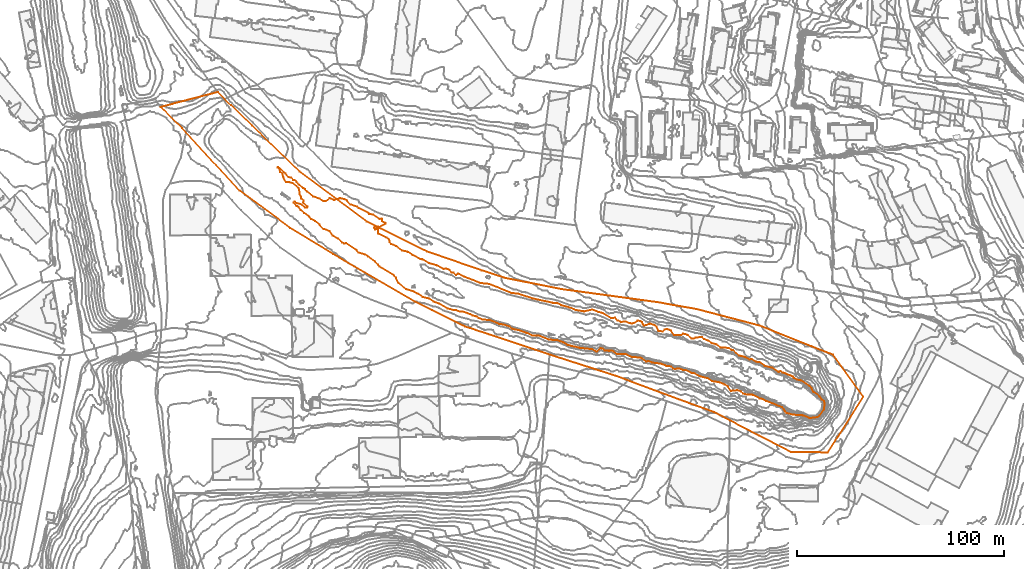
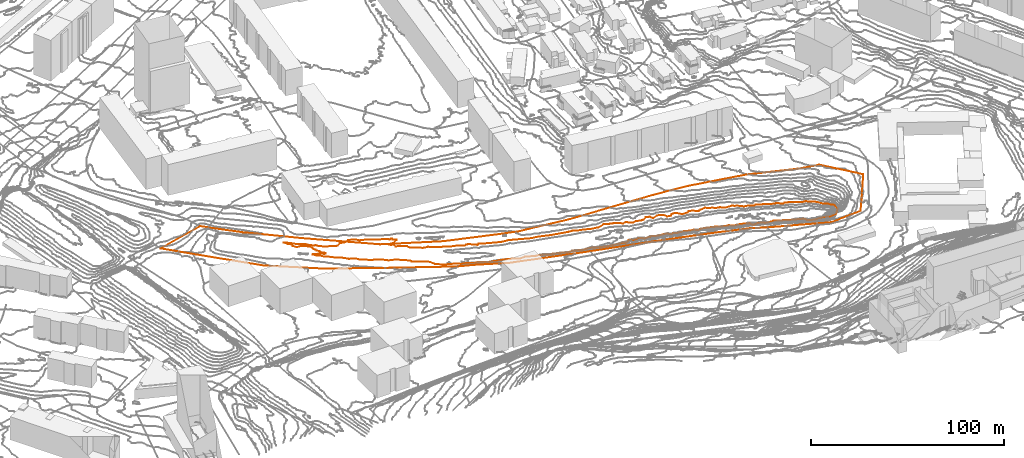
# Not in any storey, part 232 of 419: 2 proxies.
"""IFC2X3 model written with IfcOpenShell, lengths in metres."""

from ifc_helpers import new_model, entity, si_unit, frame, origin_with_axes, place, context, subcontext, project, element, save


model = new_model("IFC2X3")

# Units and contexts
model_context = context("Model", 3, precision=1e-05, world=origin_with_axes())
body_context = subcontext(model_context, "Body", "Model", "MODEL_VIEW")
ifc_project = project(units=[si_unit("AREAUNIT", "SQUARE_METRE"), si_unit("LENGTHUNIT", "METRE")], contexts=[model_context])

# Proxies
proxy_1_placement = place(None, frame((237.1920204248, 640.1476909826, 24.4700004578), z_axis=(0.0, 0.0, 1.0), x_axis=(1.0, 0.0, 0.0)))
element("IfcBuildingElementProxy", 1, at=proxy_1_placement, Name="Cadastre 378", ObjectType="NOTDEFINED", context=body_context, shape_type="GeometricCurveSet", body=[
    entity("IfcGeometricCurveSet", [entity("IfcPolyline", [entity("IfcCartesianPoint", [27.89, 7.2700000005, -0.0487085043]), entity("IfcCartesianPoint", [34.1900000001, 0.79, 0.0371970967]), entity("IfcCartesianPoint", [44.26, -9.0300000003, 0.1634316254]), entity("IfcCartesianPoint", [67.27, -31.29, 1.8423895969]), entity("IfcCartesianPoint", [99.63, -55.3600000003, 1.2714699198]), entity("IfcCartesianPoint", [128.9500000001, -69.9399999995, 1.8054446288]), entity("IfcCartesianPoint", [155.38, -79.0199999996, 2.3417530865]), entity("IfcCartesianPoint", [166.3400000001, -82.6200000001, 2.6216414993]), entity("IfcCartesianPoint", [194.05, -88.1200000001, 3.9994995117]), entity("IfcCartesianPoint", [240.3500000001, -94.4399999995, 7.0114348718]), entity("IfcCartesianPoint", [259.41, -97.7699999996, 8.0475080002]), entity("IfcCartesianPoint", [289.8, -105.7599999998, 9.4713597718]), entity("IfcCartesianPoint", [314.63, -115.7400000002, 10.4134781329]), entity("IfcCartesianPoint", [325.28, -119.8300000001, 11.7525920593]), entity("IfcCartesianPoint", [339.9400000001, -140.0199999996, 12.7970164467]), entity("IfcCartesianPoint", [327.6000000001, -159.5700000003, 12.6689586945]), entity("IfcCartesianPoint", [322.66, -167.0700000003, 12.1500870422]), entity("IfcCartesianPoint", [305.0700000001, -166.9299999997, 10.9355724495]), entity("IfcCartesianPoint", [289.49, -159.0099999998, 9.9427879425]), entity("IfcCartesianPoint", [275.4500000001, -151.6299999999, 8.7594995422]), entity("IfcCartesianPoint", [267.77, -147.6100000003, 8.5244804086]), entity("IfcCartesianPoint", [251.03, -141.5599999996, 8.0242990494]), entity("IfcCartesianPoint", [220.5600000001, -130.1899999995, 6.2590394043]), entity("IfcCartesianPoint", [188.2200000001, -119.79, 4.9893508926]), entity("IfcCartesianPoint", [159.2300000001, -110.0700000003, 3.9521359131]), entity("IfcCartesianPoint", [147.3100000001, -106.2199999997, 3.6562227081]), entity("IfcCartesianPoint", [131.4600000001, -98.2800000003, 3.1835332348]), entity("IfcCartesianPoint", [122.87, -94.0899999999, 2.5711078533]), entity("IfcCartesianPoint", [83.41, -71.1100000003, 1.3876200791]), entity("IfcCartesianPoint", [62.8100000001, -58.5099999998, 0.7618069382]), entity("IfcCartesianPoint", [38.28, -40.4500000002, 0.2918396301]), entity("IfcCartesianPoint", [10.52, -10.25, -0.4362005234]), entity("IfcCartesianPoint", [0.0, 0.0, 0.0]), entity("IfcCartesianPoint", [27.89, 7.2700000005, -0.0487085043])])]),
])
proxy_2_placement = place(None, frame((293.9670174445, 610.8976909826, 26.0), z_axis=(0.0, 0.0, 1.0), x_axis=(1.0, 0.0, 0.0)))
element("IfcBuildingElementProxy", 2, at=proxy_2_placement, Name="Contour 26.0 m", ObjectType="NOTDEFINED", context=body_context, shape_type="GeometricCurveSet", body=[
    entity("IfcGeometricCurveSet", [entity("IfcPolyline", [entity("IfcCartesianPoint", [259.1250029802, -121.0676469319, 0.0]), entity("IfcCartesianPoint", [261.1250029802, -120.6690389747, 0.0]), entity("IfcCartesianPoint", [261.99136201, -120.0, 0.0]), entity("IfcCartesianPoint", [264.1844824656, -117.0, 0.0]), entity("IfcCartesianPoint", [264.4869075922, -114.0, 0.0]), entity("IfcCartesianPoint", [264.2086529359, -113.0, 0.0]), entity("IfcCartesianPoint", [263.1250029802, -112.1921824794, 0.0]), entity("IfcCartesianPoint", [262.1250029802, -110.7319586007, 0.0]), entity("IfcCartesianPoint", [259.1250029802, -108.5354840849, 0.0]), entity("IfcCartesianPoint", [258.1250029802, -106.6981133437, 0.0]), entity("IfcCartesianPoint", [257.1250029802, -105.7835059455, 0.0]), entity("IfcCartesianPoint", [253.1250029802, -102.9876540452, 0.0]), entity("IfcCartesianPoint", [251.1250029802, -102.6944444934, 0.0]), entity("IfcCartesianPoint", [249.6891046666, -102.0, 0.0]), entity("IfcCartesianPoint", [249.1250029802, -101.2666670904, 0.0]), entity("IfcCartesianPoint", [248.1250029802, -100.6818185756, 0.0]), entity("IfcCartesianPoint", [246.1250029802, -100.0396819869, 0.0]), entity("IfcCartesianPoint", [245.1250029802, -99.4021747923, 0.0]), entity("IfcCartesianPoint", [244.1250029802, -99.2734376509, 0.0]), entity("IfcCartesianPoint", [243.1250029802, -98.5000018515, 0.0]), entity("IfcCartesianPoint", [242.1250029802, -98.9473673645, 0.0]), entity("IfcCartesianPoint", [239.1250029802, -96.9083964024, 0.0]), entity("IfcCartesianPoint", [235.5555582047, -96.0, 0.0]), entity("IfcCartesianPoint", [233.1250029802, -94.2424240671, 0.0]), entity("IfcCartesianPoint", [231.2750017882, -94.0, 0.0]), entity("IfcCartesianPoint", [229.1250029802, -92.739131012, 0.0]), entity("IfcCartesianPoint", [228.1250029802, -92.8275855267, 0.0]), entity("IfcCartesianPoint", [226.1250029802, -91.8252425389, 0.0]), entity("IfcCartesianPoint", [224.1250029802, -91.1372544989, 0.0]), entity("IfcCartesianPoint", [223.1250029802, -91.095238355, 0.0]), entity("IfcCartesianPoint", [220.1250029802, -88.4558813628, 0.0]), entity("IfcCartesianPoint", [219.1250029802, -88.1896562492, 0.0]), entity("IfcCartesianPoint", [218.1250029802, -87.3000009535, 0.0]), entity("IfcCartesianPoint", [214.1250029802, -87.1384618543, 0.0]), entity("IfcCartesianPoint", [212.1250029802, -85.57894684, 0.0]), entity("IfcCartesianPoint", [209.7678640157, -85.0, 0.0]), entity("IfcCartesianPoint", [208.1250029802, -83.7407423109, 0.0]), entity("IfcCartesianPoint", [206.1250029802, -83.0000038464, 0.0]), entity("IfcCartesianPoint", [205.1250029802, -82.0000030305, 0.0]), entity("IfcCartesianPoint", [202.1250029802, -82.3124955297, 0.0]), entity("IfcCartesianPoint", [201.1250029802, -82.8749970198, 0.0]), entity("IfcCartesianPoint", [200.1250029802, -82.7777730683, 0.0]), entity("IfcCartesianPoint", [198.124995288, -81.0, 0.0]), entity("IfcCartesianPoint", [196.1250029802, -80.3720924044, 0.0]), entity("IfcCartesianPoint", [195.1250029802, -81.0519492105, 0.0]), entity("IfcCartesianPoint", [192.1250029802, -81.1916165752, 0.0]), entity("IfcCartesianPoint", [191.6678598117, -81.0, 0.0]), entity("IfcCartesianPoint", [190.1249992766, -79.0, 0.0]), entity("IfcCartesianPoint", [189.1250029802, -78.4599990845, 0.0]), entity("IfcCartesianPoint", [188.1250029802, -78.113634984, 0.0]), entity("IfcCartesianPoint", [187.1250029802, -78.3606553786, 0.0]), entity("IfcCartesianPoint", [186.1250029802, -79.3461541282, 0.0]), entity("IfcCartesianPoint", [184.1250029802, -79.034483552, 0.0]), entity("IfcCartesianPoint", [183.1916710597, -77.0, 0.0]), entity("IfcCartesianPoint", [182.1250029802, -76.2769237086, 0.0]), entity("IfcCartesianPoint", [180.1250029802, -75.6176468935, 0.0]), entity("IfcCartesianPoint", [177.1250029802, -76.4696962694, 0.0]), entity("IfcCartesianPoint", [176.6250013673, -76.0, 0.0]), entity("IfcCartesianPoint", [176.1250029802, -74.7333319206, 0.0]), entity("IfcCartesianPoint", [175.1250029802, -74.2878796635, 0.0]), entity("IfcCartesianPoint", [174.1250029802, -74.1249995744, 0.0]), entity("IfcCartesianPoint", [172.1250029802, -75.358973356, 0.0]), entity("IfcCartesianPoint", [171.1250029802, -75.44736961, 0.0]), entity("IfcCartesianPoint", [170.1250029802, -75.3666673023, 0.0]), entity("IfcCartesianPoint", [168.1250029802, -74.4482763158, 0.0]), entity("IfcCartesianPoint", [166.1250029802, -74.7666670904, 0.0]), entity("IfcCartesianPoint", [164.2500059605, -74.0, 0.0]), entity("IfcCartesianPoint", [163.1250029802, -72.6666613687, 0.0]), entity("IfcCartesianPoint", [161.1250029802, -72.9302310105, 0.0]), entity("IfcCartesianPoint", [157.1250029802, -70.4199981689, 0.0]), entity("IfcCartesianPoint", [155.1250029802, -69.9374987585, 0.0]), entity("IfcCartesianPoint", [152.1250029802, -68.6949148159, 0.0]), entity("IfcCartesianPoint", [148.1250029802, -69.6226405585, 0.0]), entity("IfcCartesianPoint", [144.1249977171, -69.0, 0.0]), entity("IfcCartesianPoint", [141.1250029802, -67.733333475, 0.0]), entity("IfcCartesianPoint", [137.1250029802, -66.6567171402, 0.0]), entity("IfcCartesianPoint", [135.1250029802, -65.6153849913, 0.0]), entity("IfcCartesianPoint", [133.1250029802, -65.5166654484, 0.0]), entity("IfcCartesianPoint", [123.1250029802, -63.3536589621, 0.0]), entity("IfcCartesianPoint", [116.1250029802, -61.1142854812, 0.0]), entity("IfcCartesianPoint", [113.1250029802, -60.7468347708, 0.0]), entity("IfcCartesianPoint", [102.1250029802, -56.3684196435, 0.0]), entity("IfcCartesianPoint", [98.1250029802, -55.9523798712, 0.0]), entity("IfcCartesianPoint", [90.1250029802, -52.860466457, 0.0]), entity("IfcCartesianPoint", [87.1250029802, -51.3454547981, 0.0]), entity("IfcCartesianPoint", [86.1250029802, -52.0701768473, 0.0]), entity("IfcCartesianPoint", [85.1250029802, -50.9333320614, 0.0]), entity("IfcCartesianPoint", [84.1250029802, -50.7647006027, 0.0]), entity("IfcCartesianPoint", [83.1250029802, -49.6923082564, 0.0]), entity("IfcCartesianPoint", [82.1250029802, -49.1538450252, 0.0]), entity("IfcCartesianPoint", [81.1250029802, -48.9249985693, 0.0]), entity("IfcCartesianPoint", [80.1250029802, -49.1612907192, 0.0]), entity("IfcCartesianPoint", [77.1250029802, -47.4000015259, 0.0]), entity("IfcCartesianPoint", [73.1250029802, -46.3650791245, 0.0]), entity("IfcCartesianPoint", [70.1250029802, -44.44736961, 0.0]), entity("IfcCartesianPoint", [69.1250029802, -44.3673477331, 0.0]), entity("IfcCartesianPoint", [65.1250029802, -42.3448289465, 0.0]), entity("IfcCartesianPoint", [63.1250029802, -40.8285731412, 0.0]), entity("IfcCartesianPoint", [60.1250029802, -40.2307699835, 0.0]), entity("IfcCartesianPoint", [57.1250029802, -38.032258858, 0.0]), entity("IfcCartesianPoint", [54.8522709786, -37.0, 0.0]), entity("IfcCartesianPoint", [53.9945660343, -36.0, 0.0]), entity("IfcCartesianPoint", [53.9431816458, -35.0, 0.0]), entity("IfcCartesianPoint", [52.7249953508, -34.0, 0.0]), entity("IfcCartesianPoint", [48.624977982, -32.0, 0.0]), entity("IfcCartesianPoint", [48.4583363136, -30.0, 0.0]), entity("IfcCartesianPoint", [48.1250029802, -29.5999999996, 0.0]), entity("IfcCartesianPoint", [47.1249529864, -30.0, 0.0]), entity("IfcCartesianPoint", [46.6249904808, -29.0, 0.0]), entity("IfcCartesianPoint", [47.1250029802, -28.5555461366, 0.0]), entity("IfcCartesianPoint", [49.1250029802, -28.7777730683, 0.0]), entity("IfcCartesianPoint", [52.1250029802, -27.2000038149, 0.0]), entity("IfcCartesianPoint", [52.1250029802, -26.899998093, 0.0]), entity("IfcCartesianPoint", [50.3250029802, -26.0, 0.0]), entity("IfcCartesianPoint", [50.5597881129, -25.0, 0.0]), entity("IfcCartesianPoint", [50.1250029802, -24.75609654, 0.0]), entity("IfcCartesianPoint", [49.1250029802, -24.9473673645, 0.0]), entity("IfcCartesianPoint", [46.1250029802, -22.8461549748, 0.0]), entity("IfcCartesianPoint", [44.1250029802, -22.4444538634, 0.0]), entity("IfcCartesianPoint", [43.9027760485, -22.0, 0.0]), entity("IfcCartesianPoint", [39.1250029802, -19.6470621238, 0.0]), entity("IfcCartesianPoint", [38.3916730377, -19.0, 0.0]), entity("IfcCartesianPoint", [35.1250029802, -17.899998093, 0.0]), entity("IfcCartesianPoint", [33.4407919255, -16.0, 0.0]), entity("IfcCartesianPoint", [32.1250029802, -15.3333298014, 0.0]), entity("IfcCartesianPoint", [30.1250029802, -14.9411751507, 0.0]), entity("IfcCartesianPoint", [27.1250029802, -15.7272743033, 0.0]), entity("IfcCartesianPoint", [25.1250029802, -14.9090893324, 0.0]), entity("IfcCartesianPoint", [23.1250029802, -16.3333386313, 0.0]), entity("IfcCartesianPoint", [22.1250029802, -16.3600006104, 0.0]), entity("IfcCartesianPoint", [20.1250029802, -15.1578979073, 0.0]), entity("IfcCartesianPoint", [17.1250029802, -14.0000062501, 0.0]), entity("IfcCartesianPoint", [14.1250029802, -11.749996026, 0.0]), entity("IfcCartesianPoint", [13.1250029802, -10.3749970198, 0.0]), entity("IfcCartesianPoint", [12.124986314, -10.0, 0.0]), entity("IfcCartesianPoint", [10.1250029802, -8.2500059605, 0.0]), entity("IfcCartesianPoint", [9.2083376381, -7.0, 0.0]), entity("IfcCartesianPoint", [8.1250029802, -6.1666693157, 0.0]), entity("IfcCartesianPoint", [7.4583363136, -6.0, 0.0]), entity("IfcCartesianPoint", [6.4583363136, -5.0, 0.0]), entity("IfcCartesianPoint", [5.1250029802, -4.6470621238, 0.0]), entity("IfcCartesianPoint", [3.7916625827, -3.0, 0.0]), entity("IfcCartesianPoint", [0.1250029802, 0.1818213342, 0.0]), entity("IfcCartesianPoint", [0.0, 0.0, 0.0]), entity("IfcCartesianPoint", [0.9431816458, -1.0, 0.0]), entity("IfcCartesianPoint", [1.1250029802, -2.1666693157, 0.0]), entity("IfcCartesianPoint", [2.2678640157, -3.0, 0.0]), entity("IfcCartesianPoint", [2.7249953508, -5.0, 0.0]), entity("IfcCartesianPoint", [3.9250004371, -7.0, 0.0]), entity("IfcCartesianPoint", [6.1250029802, -7.2500029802, 0.0]), entity("IfcCartesianPoint", [7.1250029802, -7.6363573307, 0.0]), entity("IfcCartesianPoint", [10.1250196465, -10.0, 0.0]), entity("IfcCartesianPoint", [10.625019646, -12.0, 0.0]), entity("IfcCartesianPoint", [10.5535744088, -13.0, 0.0]), entity("IfcCartesianPoint", [11.2500059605, -14.0, 0.0]), entity("IfcCartesianPoint", [11.3250029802, -15.0, 0.0]), entity("IfcCartesianPoint", [12.5250029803, -16.0, 0.0]), entity("IfcCartesianPoint", [12.1250363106, -17.0, 0.0]), entity("IfcCartesianPoint", [14.3250029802, -19.0, 0.0]), entity("IfcCartesianPoint", [14.1250029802, -19.333333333, 0.0]), entity("IfcCartesianPoint", [13.1250029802, -19.333333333, 0.0]), entity("IfcCartesianPoint", [11.1250029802, -17.7999999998, 0.0]), entity("IfcCartesianPoint", [9.1250029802, -17.3076968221, 0.0]), entity("IfcCartesianPoint", [8.1250029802, -16.5714285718, 0.0]), entity("IfcCartesianPoint", [7.7499940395, -17.0, 0.0]), entity("IfcCartesianPoint", [9.1250029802, -18.6000025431, 0.0]), entity("IfcCartesianPoint", [10.1250029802, -19.1250029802, 0.0]), entity("IfcCartesianPoint", [11.1250029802, -20.5555461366, 0.0]), entity("IfcCartesianPoint", [12.6964315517, -22.0, 0.0]), entity("IfcCartesianPoint", [15.1250029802, -23.6666613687, 0.0]), entity("IfcCartesianPoint", [16.1250029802, -24.899998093, 0.0]), entity("IfcCartesianPoint", [18.1250029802, -25.9999962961, 0.0]), entity("IfcCartesianPoint", [20.1250029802, -27.5599975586, 0.0]), entity("IfcCartesianPoint", [22.1250029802, -29.7222239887, 0.0]), entity("IfcCartesianPoint", [25.1250029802, -30.9032240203, 0.0]), entity("IfcCartesianPoint", [26.5795468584, -33.0, 0.0]), entity("IfcCartesianPoint", [29.1250029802, -34.4999961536, 0.0]), entity("IfcCartesianPoint", [31.1250029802, -36.333340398, 0.0]), entity("IfcCartesianPoint", [32.1250029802, -36.7187492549, 0.0]), entity("IfcCartesianPoint", [33.1250029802, -36.7000007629, 0.0]), entity("IfcCartesianPoint", [38.0509273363, -40.0, 0.0]), entity("IfcCartesianPoint", [39.1250029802, -41.2083303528, 0.0]), entity("IfcCartesianPoint", [42.1250029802, -42.1052652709, 0.0]), entity("IfcCartesianPoint", [43.5583346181, -43.0, 0.0]), entity("IfcCartesianPoint", [47.1250029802, -45.57894684, 0.0]), entity("IfcCartesianPoint", [48.5416700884, -47.0, 0.0]), entity("IfcCartesianPoint", [49.1250029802, -48.0384623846, 0.0]), entity("IfcCartesianPoint", [56.1250029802, -52.1923059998, 0.0]), entity("IfcCartesianPoint", [57.1250029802, -53.3124955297, 0.0]), entity("IfcCartesianPoint", [58.3412184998, -56.0, 0.0]), entity("IfcCartesianPoint", [62.1250029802, -58.9062483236, 0.0]), entity("IfcCartesianPoint", [65.1250029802, -59.8437497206, 0.0]), entity("IfcCartesianPoint", [67.6064839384, -61.0, 0.0]), entity("IfcCartesianPoint", [70.1250029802, -62.666666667, 0.0]), entity("IfcCartesianPoint", [73.1250029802, -63.4126980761, 0.0]), entity("IfcCartesianPoint", [75.4583363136, -65.0, 0.0]), entity("IfcCartesianPoint", [78.1250029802, -65.8787879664, 0.0]), entity("IfcCartesianPoint", [82.1250029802, -68.2307706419, 0.0]), entity("IfcCartesianPoint", [85.1250029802, -69.0652187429, 0.0]), entity("IfcCartesianPoint", [86.1250029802, -68.9999982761, 0.0]), entity("IfcCartesianPoint", [88.1250029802, -69.7999992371, 0.0]), entity("IfcCartesianPoint", [89.1250029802, -69.6666655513, 0.0]), entity("IfcCartesianPoint", [93.0661781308, -71.0, 0.0]), entity("IfcCartesianPoint", [94.1250029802, -71.6086958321, 0.0]), entity("IfcCartesianPoint", [96.1250029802, -72.0196082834, 0.0]), entity("IfcCartesianPoint", [97.1250029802, -72.7924519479, 0.0]), entity("IfcCartesianPoint", [99.1250029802, -73.6500006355, 0.0]), entity("IfcCartesianPoint", [102.1250029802, -73.7589283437, 0.0]), entity("IfcCartesianPoint", [107.1250029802, -75.6610173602, 0.0]), entity("IfcCartesianPoint", [109.1931862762, -76.0, 0.0]), entity("IfcCartesianPoint", [112.0833353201, -77.0, 0.0]), entity("IfcCartesianPoint", [113.1250029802, -77.8773592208, 0.0]), entity("IfcCartesianPoint", [114.1250029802, -78.294117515, 0.0]), entity("IfcCartesianPoint", [116.1250029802, -78.6224486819, 0.0]), entity("IfcCartesianPoint", [120.2361164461, -80.0, 0.0]), entity("IfcCartesianPoint", [123.1250029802, -81.333333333, 0.0]), entity("IfcCartesianPoint", [126.1250029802, -81.2872343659, 0.0]), entity("IfcCartesianPoint", [131.1250029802, -83.2790693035, 0.0]), entity("IfcCartesianPoint", [135.1250029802, -83.5806449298, 0.0]), entity("IfcCartesianPoint", [138.1250029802, -84.6739127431, 0.0]), entity("IfcCartesianPoint", [140.1250029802, -85.8080802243, 0.0]), entity("IfcCartesianPoint", [142.1250029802, -86.366666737, 0.0]), entity("IfcCartesianPoint", [146.1250029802, -87.2935776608, 0.0]), entity("IfcCartesianPoint", [152.1250029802, -87.9703697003, 0.0]), entity("IfcCartesianPoint", [154.1250029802, -89.0934583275, 0.0]), entity("IfcCartesianPoint", [156.1250029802, -87.4639999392, 0.0]), entity("IfcCartesianPoint", [157.1250029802, -87.6993005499, 0.0]), entity("IfcCartesianPoint", [158.1250029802, -88.4852937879, 0.0]), entity("IfcCartesianPoint", [160.1250029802, -88.702532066, 0.0]), entity("IfcCartesianPoint", [161.1250029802, -88.4863010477, 0.0]), entity("IfcCartesianPoint", [162.313407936, -89.0, 0.0]), entity("IfcCartesianPoint", [164.1250029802, -90.3703696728, 0.0]), entity("IfcCartesianPoint", [168.1250029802, -90.3258432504, 0.0]), entity("IfcCartesianPoint", [171.1250029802, -91.6376809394, 0.0]), entity("IfcCartesianPoint", [175.145003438, -92.0, 0.0]), entity("IfcCartesianPoint", [176.1250029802, -92.3888886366, 0.0]), entity("IfcCartesianPoint", [178.1250029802, -93.9360000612, 0.0]), entity("IfcCartesianPoint", [179.1250029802, -93.5801530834, 0.0]), entity("IfcCartesianPoint", [181.1250029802, -94.4044115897, 0.0]), entity("IfcCartesianPoint", [185.1250029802, -94.9058824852, 0.0]), entity("IfcCartesianPoint", [188.1250029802, -96.0425540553, 0.0]), entity("IfcCartesianPoint", [190.1250029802, -96.250000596, 0.0]), entity("IfcCartesianPoint", [191.1250029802, -97.1704542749, 0.0]), entity("IfcCartesianPoint", [192.1250029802, -97.6384618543, 0.0]), entity("IfcCartesianPoint", [193.1250029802, -97.2727277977, 0.0]), entity("IfcCartesianPoint", [194.1250029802, -97.281690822, 0.0]), entity("IfcCartesianPoint", [196.1250029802, -97.9690724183, 0.0]), entity("IfcCartesianPoint", [197.2708358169, -98.0, 0.0]), entity("IfcCartesianPoint", [200.1250029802, -99.4634137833, 0.0]), entity("IfcCartesianPoint", [201.1250029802, -99.4057977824, 0.0]), entity("IfcCartesianPoint", [203.9711534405, -101.0, 0.0]), entity("IfcCartesianPoint", [207.9750041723, -102.0, 0.0]), entity("IfcCartesianPoint", [210.1250029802, -103.3979587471, 0.0]), entity("IfcCartesianPoint", [213.9916671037, -104.0, 0.0]), entity("IfcCartesianPoint", [216.1250029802, -104.9620244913, 0.0]), entity("IfcCartesianPoint", [217.7386396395, -106.0, 0.0]), entity("IfcCartesianPoint", [219.1250029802, -108.0806440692, 0.0]), entity("IfcCartesianPoint", [222.1250029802, -107.7708327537, 0.0]), entity("IfcCartesianPoint", [224.1250029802, -108.3584911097, 0.0]), entity("IfcCartesianPoint", [225.1250029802, -109.3720924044, 0.0]), entity("IfcCartesianPoint", [226.1250029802, -109.7037037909, 0.0]), entity("IfcCartesianPoint", [229.9375024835, -110.0, 0.0]), entity("IfcCartesianPoint", [233.1250029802, -111.7264960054, 0.0]), entity("IfcCartesianPoint", [234.3842615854, -112.0, 0.0]), entity("IfcCartesianPoint", [236.1250029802, -112.9333332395, 0.0]), entity("IfcCartesianPoint", [243.9755784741, -116.0, 0.0]), entity("IfcCartesianPoint", [244.8772149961, -117.0, 0.0]), entity("IfcCartesianPoint", [245.2739387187, -118.0, 0.0]), entity("IfcCartesianPoint", [246.1250029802, -118.7619045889, 0.0]), entity("IfcCartesianPoint", [249.1250029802, -119.6111110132, 0.0]), entity("IfcCartesianPoint", [254.1250029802, -119.9093958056, 0.0]), entity("IfcCartesianPoint", [257.1250029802, -121.1701030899, 0.0]), entity("IfcCartesianPoint", [259.1250029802, -121.0676469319, 0.0])])]),
])

save(model, "model.ifc")
